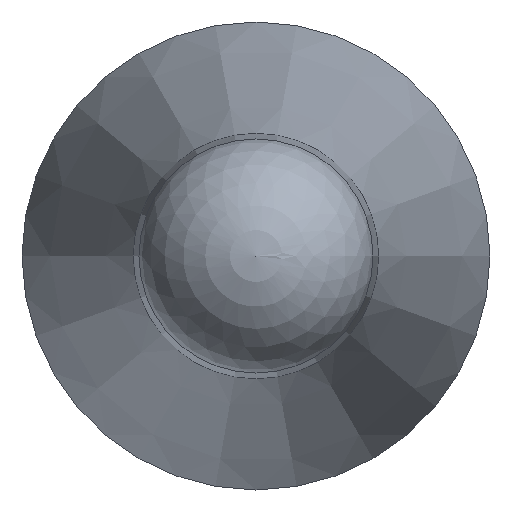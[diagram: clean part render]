
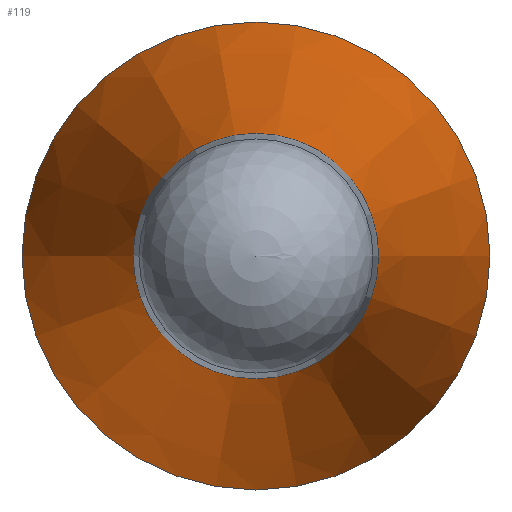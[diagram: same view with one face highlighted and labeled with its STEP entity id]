
A CAD part, left-side view. The second image highlights one B-rep face of the part: STEP entity #119.
In plain terms, the highlighted conical face has half-angle 12 degrees and reference radius 3 mm.
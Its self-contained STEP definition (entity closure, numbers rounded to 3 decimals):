
#97=CONICAL_SURFACE('',#194,3.,12.);
#106=FACE_BOUND('',#134,.T.);
#107=FACE_BOUND('',#135,.T.);
#119=ADVANCED_FACE('',(#106,#107),#97,.T.);
#134=EDGE_LOOP('',(#150));
#135=EDGE_LOOP('',(#151));
#150=ORIENTED_EDGE('',*,*,#172,.T.);
#151=ORIENTED_EDGE('',*,*,#173,.F.);
#164=VERTEX_POINT('',#249);
#165=VERTEX_POINT('',#252);
#172=EDGE_CURVE('',#164,#164,#180,.T.);
#173=EDGE_CURVE('',#165,#165,#181,.T.);
#180=CIRCLE('',#191,1.572);
#181=CIRCLE('',#193,3.);
#191=AXIS2_PLACEMENT_3D('',#248,#215,#216);
#193=AXIS2_PLACEMENT_3D('',#251,#219,#220);
#194=AXIS2_PLACEMENT_3D('',#253,#221,#222);
#215=DIRECTION('',(1.,0.,0.));
#216=DIRECTION('',(0.,1.,0.));
#219=DIRECTION('',(1.,0.,0.));
#220=DIRECTION('',(0.,1.,0.));
#221=DIRECTION('',(1.,0.,0.));
#222=DIRECTION('',(0.,1.,0.));
#248=CARTESIAN_POINT('',(7913.912,6103.288,0.));
#249=CARTESIAN_POINT('',(7913.912,6104.86,0.));
#251=CARTESIAN_POINT('',(7920.629,6103.288,0.));
#252=CARTESIAN_POINT('',(7920.629,6106.288,0.));
#253=CARTESIAN_POINT('',(7920.629,6103.288,0.));
